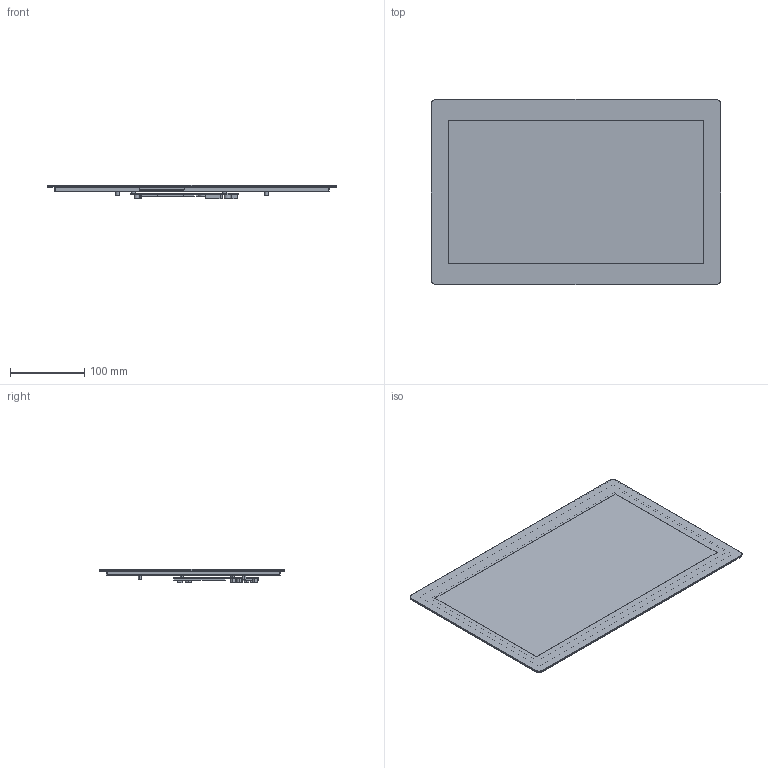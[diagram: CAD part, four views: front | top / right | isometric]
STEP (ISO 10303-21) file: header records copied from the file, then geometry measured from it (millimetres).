
FILE_DESCRIPTION((''),'2;1');
FILE_NAME('3D-DMG19108C156-05WTC','2023-01-12T',('Administrator'),(''),'PRO/ENGINEER BY PARAMETRIC TECHNOLOGY CORPORATION, 2011310','PRO/ENGINEER BY PARAMETRIC TECHNOLOGY CORPORATION, 2011310','');
FILE_SCHEMA(('CONFIG_CONTROL_DESIGN','SHAPE_APPEARANCE_LAYERS_GROUPS'));
Products named in the file (1): 3D-DMG19108C156-05WTC
Bounding box: 389.16 x 248.6 x 18.2 mm (x, y, z)
Volume: 576020.7 mm3; surface area: 554176 mm2
Topology: 1 solids, 2 shells, 347 faces, 25540 edges, 27498 vertices
Faces by surface type: plane 249, cylinder 98
Entity records: 264584 total; most frequent: DIRECTION 35953, PRESENTATION_STYLE_ASSIGNMENT 28092, STYLED_ITEM 28092, CARTESIAN_POINT 26520, CURVE_STYLE 26201, TRIMMED_CURVE 24593, COMPOSITE_CURVE_SEGMENT 22747, VECTOR 15825
